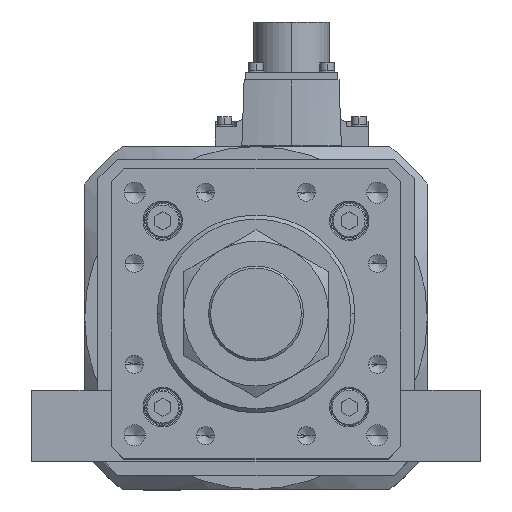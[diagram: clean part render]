
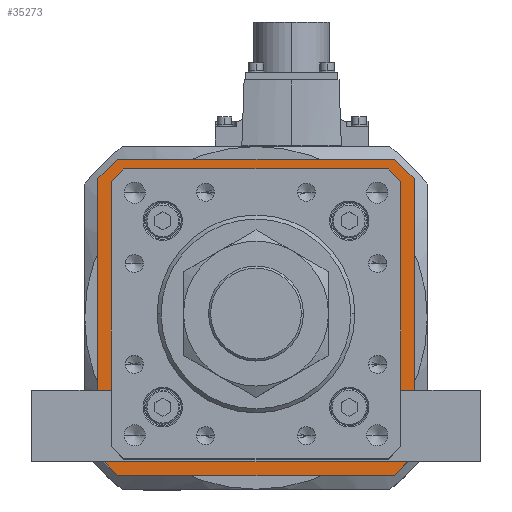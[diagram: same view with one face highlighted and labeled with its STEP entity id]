
A CAD part, top view. The second image highlights one B-rep face of the part: STEP entity #35273.
In plain terms, the highlighted planar face has unit normal (0, 0, 1).
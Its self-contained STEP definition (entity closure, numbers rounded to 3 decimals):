
#51 = CARTESIAN_POINT ( 'NONE',  ( -60., -52.5, -119. ) ) ;
#60 = EDGE_CURVE ( 'NONE', #27261, #10088, #19811, .T. ) ;
#219 = LINE ( 'NONE', #14705, #23780 ) ;
#297 = CARTESIAN_POINT ( 'NONE',  ( 49.8, 53.5, -119. ) ) ;
#387 = VERTEX_POINT ( 'NONE', #11924 ) ;
#749 = LINE ( 'NONE', #25455, #13651 ) ;
#911 = DIRECTION ( 'NONE',  ( -0.707, -0.707, 0. ) ) ;
#1084 = CARTESIAN_POINT ( 'NONE',  ( 0., 0., -119. ) ) ;
#1313 = EDGE_CURVE ( 'NONE', #30664, #9450, #11417, .T. ) ;
#2006 = CARTESIAN_POINT ( 'NONE',  ( 60., -52.5, -119. ) ) ;
#2383 = EDGE_CURVE ( 'NONE', #7703, #16792, #18744, .T. ) ;
#2480 = LINE ( 'NONE', #10038, #30222 ) ;
#2746 = EDGE_CURVE ( 'NONE', #31245, #34412, #21037, .T. ) ;
#2798 = CARTESIAN_POINT ( 'NONE',  ( -53.5, 49.593, -119. ) ) ;
#3066 = DIRECTION ( 'NONE',  ( -1., 0., 0. ) ) ;
#3123 = DIRECTION ( 'NONE',  ( 1., 0., 0. ) ) ;
#3792 = DIRECTION ( 'NONE',  ( 1., 0., 0. ) ) ;
#4032 = DIRECTION ( 'NONE',  ( 0., 0., 1. ) ) ;
#4736 = DIRECTION ( 'NONE',  ( 1., 0., 0. ) ) ;
#5828 = VECTOR ( 'NONE', #3123, 1000. ) ;
#6700 = VECTOR ( 'NONE', #8764, 1000. ) ;
#6893 = EDGE_CURVE ( 'NONE', #10088, #27242, #749, .T. ) ;
#7206 = LINE ( 'NONE', #38186, #10897 ) ;
#7509 = EDGE_CURVE ( 'NONE', #17538, #7703, #31706, .T. ) ;
#7668 = LINE ( 'NONE', #23147, #34059 ) ;
#7703 = VERTEX_POINT ( 'NONE', #28659 ) ;
#7737 = VECTOR ( 'NONE', #22742, 1000. ) ;
#7747 = ORIENTED_EDGE ( 'NONE', *, *, #6893, .F. ) ;
#8194 = LINE ( 'NONE', #20757, #33657 ) ;
#8221 = DIRECTION ( 'NONE',  ( -0.707, 0.707, 0. ) ) ;
#8428 = DIRECTION ( 'NONE',  ( 0., 1., 0. ) ) ;
#8580 = CARTESIAN_POINT ( 'NONE',  ( -52.5, -60., -119. ) ) ;
#8764 = DIRECTION ( 'NONE',  ( 0., 1., 0. ) ) ;
#9159 = CARTESIAN_POINT ( 'NONE',  ( 52.5, -60., -119. ) ) ;
#9450 = VERTEX_POINT ( 'NONE', #13750 ) ;
#9561 = DIRECTION ( 'NONE',  ( 0.707, -0.707, 0. ) ) ;
#10010 = CARTESIAN_POINT ( 'NONE',  ( 49.593, 53.5, -119. ) ) ;
#10038 = CARTESIAN_POINT ( 'NONE',  ( 49.446, -53.646, -119. ) ) ;
#10088 = VERTEX_POINT ( 'NONE', #34230 ) ;
#10174 = DIRECTION ( 'NONE',  ( 0.707, 0.707, 0. ) ) ;
#10322 = VERTEX_POINT ( 'NONE', #15316 ) ;
#10897 = VECTOR ( 'NONE', #26424, 1000. ) ;
#10961 = ORIENTED_EDGE ( 'NONE', *, *, #12133, .T. ) ;
#11408 = VECTOR ( 'NONE', #8221, 1000. ) ;
#11417 = LINE ( 'NONE', #19352, #16476 ) ;
#11924 = CARTESIAN_POINT ( 'NONE',  ( 49.593, -53.5, -119. ) ) ;
#11939 = VECTOR ( 'NONE', #4736, 1000. ) ;
#12133 = EDGE_CURVE ( 'NONE', #27803, #13898, #219, .T. ) ;
#12386 = DIRECTION ( 'NONE',  ( 0.707, 0.707, 0. ) ) ;
#13651 = VECTOR ( 'NONE', #9561, 1000. ) ;
#13750 = CARTESIAN_POINT ( 'NONE',  ( -49.593, 53.5, -119. ) ) ;
#13898 = VERTEX_POINT ( 'NONE', #35408 ) ;
#14195 = LINE ( 'NONE', #19137, #7737 ) ;
#14420 = DIRECTION ( 'NONE',  ( 0.707, -0.707, 0. ) ) ;
#14705 = CARTESIAN_POINT ( 'NONE',  ( 53.5, -49.8, -119. ) ) ;
#14851 = CARTESIAN_POINT ( 'NONE',  ( -52.5, 60., -119. ) ) ;
#15316 = CARTESIAN_POINT ( 'NONE',  ( -53.5, -49.593, -119. ) ) ;
#16157 = EDGE_CURVE ( 'NONE', #387, #20156, #8194, .T. ) ;
#16476 = VECTOR ( 'NONE', #10174, 1000. ) ;
#16483 = CARTESIAN_POINT ( 'NONE',  ( 52.5, 60., -119. ) ) ;
#16743 = EDGE_CURVE ( 'NONE', #20156, #10322, #7206, .T. ) ;
#16792 = VERTEX_POINT ( 'NONE', #8580 ) ;
#17538 = VERTEX_POINT ( 'NONE', #2006 ) ;
#17675 = CARTESIAN_POINT ( 'NONE',  ( 53.5, 49.593, -119. ) ) ;
#17788 = CARTESIAN_POINT ( 'NONE',  ( 53.646, 49.446, -119. ) ) ;
#18114 = CARTESIAN_POINT ( 'NONE',  ( -52.5, 60., -119. ) ) ;
#18158 = EDGE_CURVE ( 'NONE', #27242, #17538, #14195, .T. ) ;
#18423 = ORIENTED_EDGE ( 'NONE', *, *, #18158, .F. ) ;
#18608 = ORIENTED_EDGE ( 'NONE', *, *, #28398, .T. ) ;
#18744 = LINE ( 'NONE', #9159, #27099 ) ;
#18754 = LINE ( 'NONE', #297, #5828 ) ;
#18846 = CARTESIAN_POINT ( 'NONE',  ( 60., -52.5, -119. ) ) ;
#19137 = CARTESIAN_POINT ( 'NONE',  ( 60., 52.5, -119. ) ) ;
#19352 = CARTESIAN_POINT ( 'NONE',  ( -49.446, 53.646, -119. ) ) ;
#19409 = EDGE_CURVE ( 'NONE', #10322, #30664, #7668, .T. ) ;
#19509 = EDGE_CURVE ( 'NONE', #9450, #32065, #18754, .T. ) ;
#19799 = ORIENTED_EDGE ( 'NONE', *, *, #34432, .F. ) ;
#19811 = LINE ( 'NONE', #16483, #11939 ) ;
#20156 = VERTEX_POINT ( 'NONE', #30693 ) ;
#20422 = EDGE_CURVE ( 'NONE', #34412, #27261, #21454, .T. ) ;
#20472 = ORIENTED_EDGE ( 'NONE', *, *, #60, .F. ) ;
#20757 = CARTESIAN_POINT ( 'NONE',  ( -49.8, -53.5, -119. ) ) ;
#20780 = DIRECTION ( 'NONE',  ( 0., -1., 0. ) ) ;
#21037 = LINE ( 'NONE', #32272, #6700 ) ;
#21454 = LINE ( 'NONE', #18114, #28416 ) ;
#21545 = FACE_BOUND ( 'NONE', #36077, .T. ) ;
#21585 = PLANE ( 'NONE',  #34665 ) ;
#22742 = DIRECTION ( 'NONE',  ( 0., -1., 0. ) ) ;
#23147 = CARTESIAN_POINT ( 'NONE',  ( -53.5, 49.8, -119. ) ) ;
#23150 = ORIENTED_EDGE ( 'NONE', *, *, #27842, .T. ) ;
#23267 = EDGE_LOOP ( 'NONE', ( #20472, #36483, #30940, #19799, #27253, #37644, #18423, #7747 ) ) ;
#23780 = VECTOR ( 'NONE', #20780, 1000. ) ;
#24330 = FACE_OUTER_BOUND ( 'NONE', #23267, .T. ) ;
#24768 = VECTOR ( 'NONE', #911, 1000. ) ;
#25455 = CARTESIAN_POINT ( 'NONE',  ( 60., 52.5, -119. ) ) ;
#25772 = LINE ( 'NONE', #35129, #11408 ) ;
#26020 = ORIENTED_EDGE ( 'NONE', *, *, #19409, .T. ) ;
#26319 = CARTESIAN_POINT ( 'NONE',  ( -60., 52.5, -119. ) ) ;
#26424 = DIRECTION ( 'NONE',  ( -0.707, 0.707, 0. ) ) ;
#27099 = VECTOR ( 'NONE', #32821, 1000. ) ;
#27242 = VERTEX_POINT ( 'NONE', #32164 ) ;
#27253 = ORIENTED_EDGE ( 'NONE', *, *, #2383, .F. ) ;
#27261 = VERTEX_POINT ( 'NONE', #14851 ) ;
#27803 = VERTEX_POINT ( 'NONE', #17675 ) ;
#27842 = EDGE_CURVE ( 'NONE', #32065, #27803, #36282, .T. ) ;
#28398 = EDGE_CURVE ( 'NONE', #13898, #387, #2480, .T. ) ;
#28410 = ORIENTED_EDGE ( 'NONE', *, *, #1313, .T. ) ;
#28416 = VECTOR ( 'NONE', #12386, 1000. ) ;
#28659 = CARTESIAN_POINT ( 'NONE',  ( 52.5, -60., -119. ) ) ;
#30222 = VECTOR ( 'NONE', #30863, 1000. ) ;
#30664 = VERTEX_POINT ( 'NONE', #2798 ) ;
#30693 = CARTESIAN_POINT ( 'NONE',  ( -49.593, -53.5, -119. ) ) ;
#30863 = DIRECTION ( 'NONE',  ( -0.707, -0.707, 0. ) ) ;
#30940 = ORIENTED_EDGE ( 'NONE', *, *, #2746, .F. ) ;
#31169 = VECTOR ( 'NONE', #14420, 1000. ) ;
#31245 = VERTEX_POINT ( 'NONE', #51 ) ;
#31706 = LINE ( 'NONE', #18846, #24768 ) ;
#32065 = VERTEX_POINT ( 'NONE', #10010 ) ;
#32164 = CARTESIAN_POINT ( 'NONE',  ( 60., 52.5, -119. ) ) ;
#32272 = CARTESIAN_POINT ( 'NONE',  ( -60., 52.5, -119. ) ) ;
#32821 = DIRECTION ( 'NONE',  ( -1., 0., 0. ) ) ;
#32891 = ORIENTED_EDGE ( 'NONE', *, *, #16157, .T. ) ;
#33657 = VECTOR ( 'NONE', #3066, 1000. ) ;
#34059 = VECTOR ( 'NONE', #8428, 1000. ) ;
#34230 = CARTESIAN_POINT ( 'NONE',  ( 52.5, 60., -119. ) ) ;
#34412 = VERTEX_POINT ( 'NONE', #26319 ) ;
#34432 = EDGE_CURVE ( 'NONE', #16792, #31245, #25772, .T. ) ;
#34665 = AXIS2_PLACEMENT_3D ( 'NONE', #1084, #4032, #3792 ) ;
#35123 = ORIENTED_EDGE ( 'NONE', *, *, #19509, .T. ) ;
#35129 = CARTESIAN_POINT ( 'NONE',  ( -52.5, -60., -119. ) ) ;
#35273 = ADVANCED_FACE ( 'NONE', ( #21545, #24330 ), #21585, .T. ) ;
#35408 = CARTESIAN_POINT ( 'NONE',  ( 53.5, -49.593, -119. ) ) ;
#35653 = ORIENTED_EDGE ( 'NONE', *, *, #16743, .T. ) ;
#36077 = EDGE_LOOP ( 'NONE', ( #35123, #23150, #10961, #18608, #32891, #35653, #26020, #28410 ) ) ;
#36282 = LINE ( 'NONE', #17788, #31169 ) ;
#36483 = ORIENTED_EDGE ( 'NONE', *, *, #20422, .F. ) ;
#37644 = ORIENTED_EDGE ( 'NONE', *, *, #7509, .F. ) ;
#38186 = CARTESIAN_POINT ( 'NONE',  ( -53.646, -49.446, -119. ) ) ;
